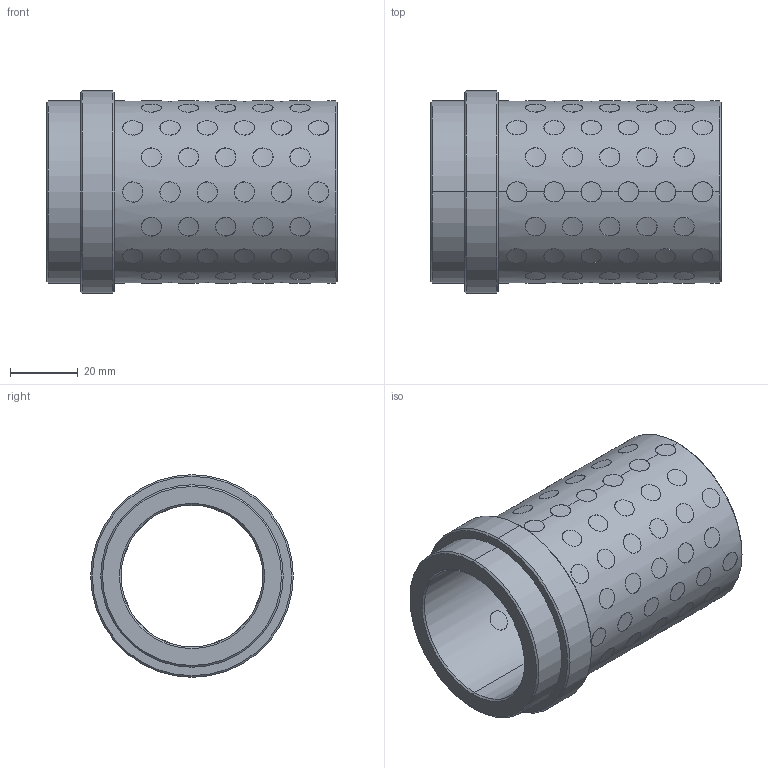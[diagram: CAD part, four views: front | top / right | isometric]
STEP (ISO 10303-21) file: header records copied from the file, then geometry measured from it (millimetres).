
FILE_DESCRIPTION((''),'2;1');
FILE_NAME('G31242076','2017-12-31T',('MANU'),(''),'PRO/ENGINEER BY PARAMETRIC TECHNOLOGY CORPORATION, 2012130','PRO/ENGINEER BY PARAMETRIC TECHNOLOGY CORPORATION, 2012130','');
FILE_SCHEMA(('CONFIG_CONTROL_DESIGN'));
Length unit declared in the file: millimetre
Products named in the file (1): G31242076
Bounding box: 86 x 60 x 60 mm (x, y, z)
Volume: 82812 mm3; surface area: 48539.7 mm2
Topology: 89 solids, 89 shells, 552 faces, 1176 edges, 780 vertices
Faces by surface type: cylinder 536, cone 12, plane 4
Entity records: 28104 total; most frequent: CARTESIAN_POINT 17346, ORIENTED_EDGE 2352, DIRECTION 1556, EDGE_CURVE 1176, VERTEX_POINT 780, B_SPLINE_CURVE_WITH_KNOTS 752, EDGE_LOOP 708, AXIS2_PLACEMENT_3D 580
